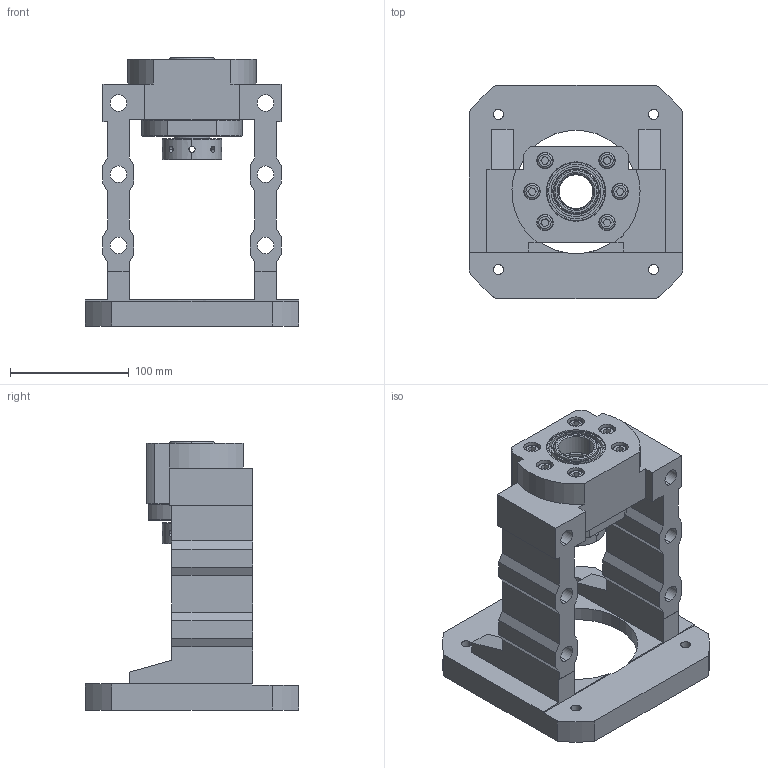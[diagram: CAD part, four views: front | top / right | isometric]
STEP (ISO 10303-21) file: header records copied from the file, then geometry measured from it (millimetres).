
FILE_DESCRIPTION (( 'STEP AP203' ), '1' );
FILE_NAME ('MBCS30-J²Õ¦X¥ó.STEP', '2024-09-03T05:55:32', ( '' ), ( '' ), 'SwSTEP 2.0', 'SolidWorks 2018', '' );
FILE_SCHEMA (( 'CONFIG_CONTROL_DESIGN' ));
Length unit declared in the file: millimetre
Products named in the file (1): MBCS30-J組合件
Bounding box: 180 x 180 x 226 mm (x, y, z)
Surface area: 215829.2 mm2 (no closed solid volume)
Topology: 0 solids, 22 shells, 341 faces, 957 edges, 633 vertices
Faces by surface type: plane 137, cylinder 112, cone 60, torus 24, bspline 8
Entity records: 23225 total; most frequent: CARTESIAN_POINT 14408, DIRECTION 1848, ORIENTED_EDGE 1699, EDGE_CURVE 949, AXIS2_PLACEMENT_3D 691, VERTEX_POINT 633, VECTOR 466, LINE 466
